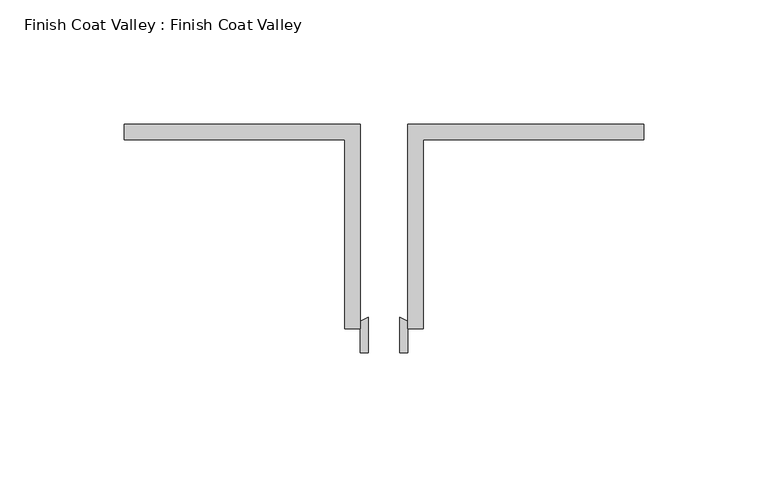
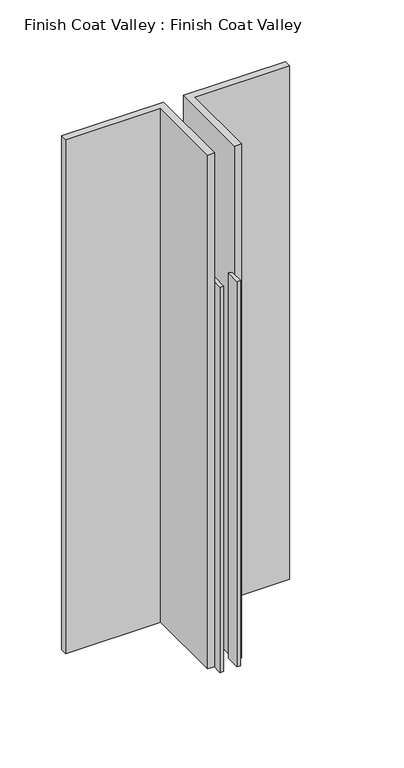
"""IFC4 building model written with IfcOpenShell, lengths in millimetres: proxy geometry, Finish Coat Valley : Finish Coat Valley."""

from ifc_helpers import new_model, si_unit, point, frame_2d, origin, origin_with_axes, place, context, project, spatial, polyline, circle_curve, trimmed, segment, composite_curve, outline, extrude, source, transform, mapped, element, save


def finish_coat_valley_finish_coat_valley_b212d677(model_context):
    return source(origin(), model_context, "Body", "SweptSolid", [
        extrude(outline(polyline([(26834.4539273, 548.2566297), (26834.4539273, 630.8066297), (26929.7039273, 630.8066297), (26929.7039273, 624.4566297), (26840.8039273, 624.4566297), (26840.8039273, 548.2566297), (26834.4539273, 548.2566297)])), origin_with_axes(), (0.0, 0.0, 1.0), 508.0),
        extrude(outline(polyline([(26815.4039273, 630.8066297), (26815.4039273, 548.2566297), (26809.0539273, 548.2566297), (26809.0539273, 624.4566297), (26720.1539273, 624.4566297), (26720.1539273, 630.8066297), (26815.4039273, 630.8066297)])), origin_with_axes(), (0.0, 0.0, 1.0), 508.0),
        extrude(outline(composite_curve([segment(trimmed(circle_curve(frame_2d((26824.9289273, 534.9338457)), 19.05), [point((26815.4039273, 551.4316297))], [point((26818.5789273, 552.894358))], False, "CARTESIAN"), True, "CONTINUOUS"), segment(polyline([(26818.5789273, 552.894358), (26818.5789273, 538.7316297), (26815.4039273, 538.7316297), (26815.4039273, 551.4316297)]), True, "CONTINUOUS")], self_intersect=False)), origin_with_axes(), (0.0, 0.0, 1.0), 381.0),
        extrude(outline(composite_curve([segment(polyline([(26834.4539273, 538.7316297), (26831.2789273, 538.7316297), (26831.2789273, 552.894358)]), True, "CONTINUOUS"), segment(trimmed(circle_curve(frame_2d((26824.9289273, 534.9338457)), 19.05), [point((26831.2789273, 552.894358))], [point((26834.4539273, 551.4316297))], False, "CARTESIAN"), True, "CONTINUOUS"), segment(polyline([(26834.4539273, 551.4316297), (26834.4539273, 538.7316297)]), True, "CONTINUOUS")], self_intersect=False)), origin_with_axes(), (0.0, 0.0, 1.0), 381.0),
    ])


if __name__ == "__main__":
    model = new_model("IFC4")
    model_context = context("Model", 3, world=origin())
    ifc_project = project(units=[si_unit("LENGTHUNIT", "METRE", prefix="MILLI")], contexts=[model_context])
    site = spatial("IfcSite", under=ifc_project)
    building = spatial("IfcBuilding", under=site)
    placement = place(None, origin())
    finish_coat_valley_finish_coat_valley_shape = finish_coat_valley_finish_coat_valley_b212d677(model_context)
    element("IfcBuildingElementProxy", 1, Name="Finish Coat Valley : Finish Coat Valley", ObjectType="Finish Coat Valley : Finish Coat Valley", at=placement, inside=building, context=model_context, shape_type="MappedRepresentation", body=[
        mapped(finish_coat_valley_finish_coat_valley_shape, transform((0.0, 0.0, 0.0), x_axis=(1.0, 0.0, 0.0), y_axis=(0.0, 1.0, 0.0), z_axis=(0.0, 0.0, 1.0))),
    ])
    save(model, "model.ifc")
